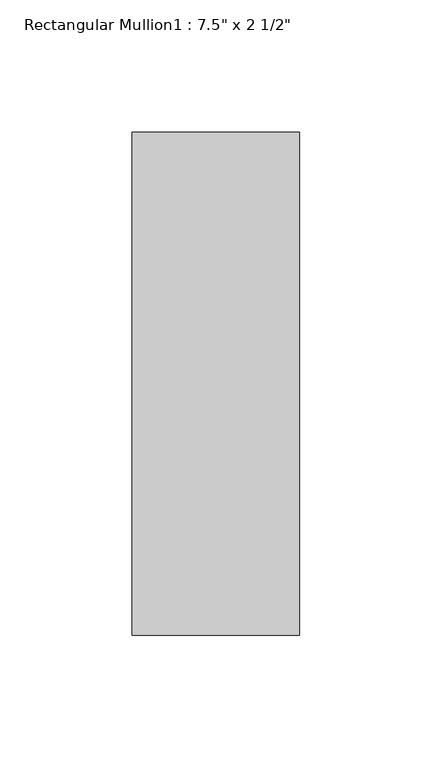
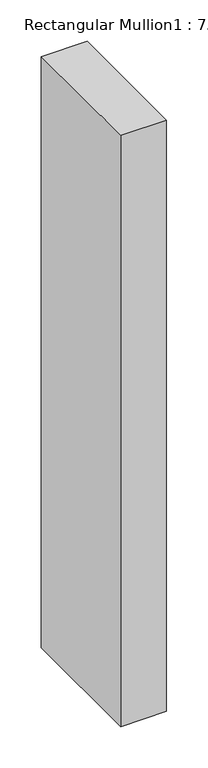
"""IFC4 building model written with IfcOpenShell, lengths in millimetres: member geometry."""

from ifc_helpers import new_model, si_unit, frame, origin, place, context, project, spatial, polyline, outline, extrude, source, transform, mapped, element, save


def member_72d8ca50(model_context):
    return source(origin(), model_context, "Body", "SweptSolid", [
        extrude(outline(polyline([(31.75, 165.1), (31.75, -25.4), (-31.75, -25.4), (-31.75, 165.1), (31.75, 165.1)])), frame((0.0, 0.0, -869.9404075), z_axis=(0.0, 0.0, 1.0), x_axis=(1.0, 0.0, 0.0)), (0.0, 0.0, 1.0), 869.9404075),
    ])


if __name__ == "__main__":
    model = new_model("IFC4")
    model_context = context("Model", 3, world=origin())
    ifc_project = project(units=[si_unit("LENGTHUNIT", "METRE", prefix="MILLI")], contexts=[model_context])
    site = spatial("IfcSite", under=ifc_project)
    building = spatial("IfcBuilding", under=site)
    placement = place(None, origin())
    member_shape = member_72d8ca50(model_context)
    element("IfcMember", 1, ObjectType="Rectangular Mullion1 : 7.5\" x 2 1/2\"", at=placement, inside=building, context=model_context, shape_type="MappedRepresentation", body=[
        mapped(member_shape, transform((0.0, 0.0, 0.0), x_axis=(1.0, 0.0, 0.0), y_axis=(0.0, 1.0, 0.0), z_axis=(0.0, 0.0, 1.0))),
    ])
    save(model, "model.ifc")
